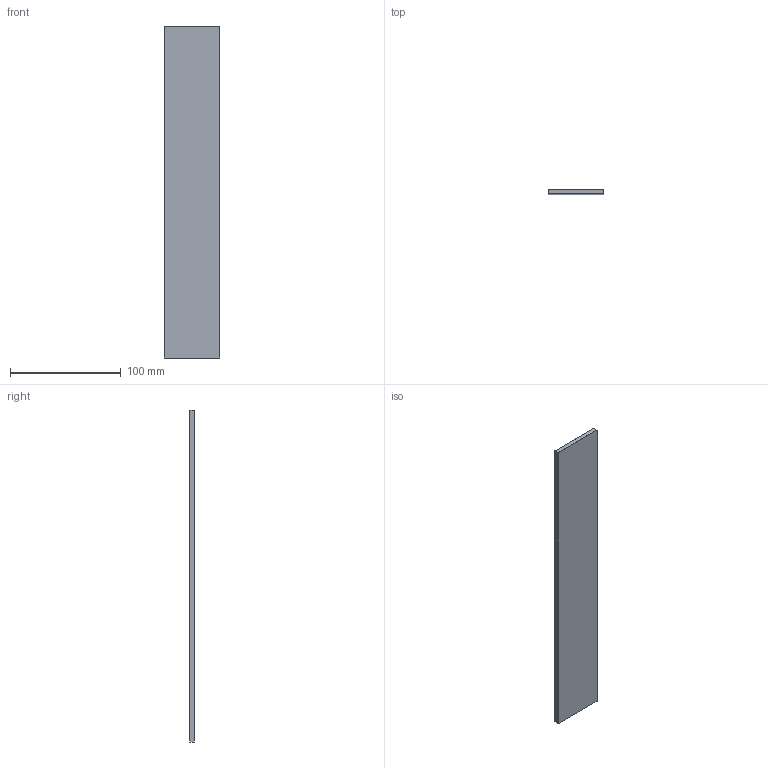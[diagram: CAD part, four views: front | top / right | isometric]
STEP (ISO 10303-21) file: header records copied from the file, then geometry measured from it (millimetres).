
FILE_DESCRIPTION (( 'STEP AP214' ), '1' );
FILE_NAME ('PS-50X4.STEP', '2025-02-19T11:10:21', ( 'Àëåêñåé' ), ( '' ), 'SwSTEP 2.0', 'SolidWorks 2022', '' );
FILE_SCHEMA (( 'AUTOMOTIVE_DESIGN' ));
Length unit declared in the file: millimetre
Products named in the file (1): PS-50X4
Bounding box: 50 x 4 x 300 mm (x, y, z)
Volume: 59997.2 mm3; surface area: 32743.8 mm2
Topology: 1 solids, 1 shells, 18 faces, 40 edges, 20 vertices
Faces by surface type: cylinder 8, plane 6, sphere 4
Entity records: 681 total; most frequent: DIRECTION 90, CARTESIAN_POINT 75, ORIENTED_EDGE 72, EDGE_CURVE 36, AXIS2_PLACEMENT_3D 35, VECTOR 20, UNCERTAINTY_MEASURE_WITH_UNIT 20, LINE 20
